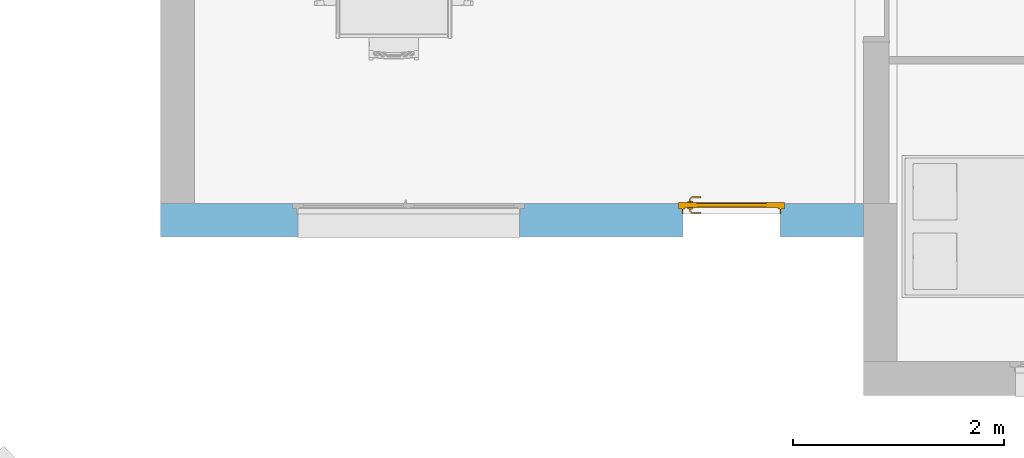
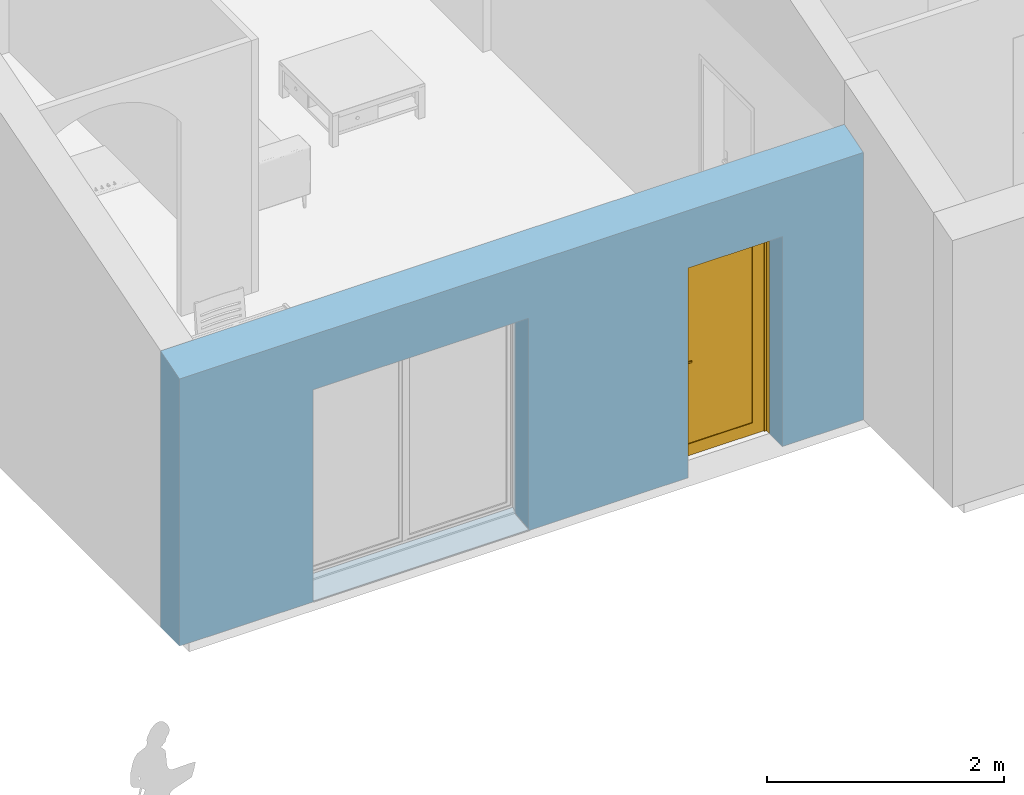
# One storey, part 8 of 18: 1 door, 2 openings, plus 1 element that does not belong to this part.
"""IFC2X3 building model written with IfcOpenShell, lengths in metres."""

from ifc_helpers import new_model, entity, si_unit, converted_unit, derived_unit, direction, frame, frame_2d, origin, place, context, subcontext, project, spatial, polyline, rectangle, extrude, clip, bounded_halfspace, faceted_brep, source, transform, mapped, material, material_list, layer, layer_set, layer_usage, type_object, type_shapes, element, fill, save


model = new_model("IFC2X3")

# Units and contexts
model_context = context("Model", 3, precision=1e-05, world=origin(), true_north=direction((6.12303176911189e-17, 1.0)))
body_context = subcontext(model_context, "Body", "Model", "MODEL_VIEW")
ifc_project = project(units=[si_unit("LENGTHUNIT", "METRE"), si_unit("AREAUNIT", "SQUARE_METRE"), si_unit("VOLUMEUNIT", "CUBIC_METRE"), converted_unit("PLANEANGLEUNIT", "DEGREE", entity("IfcRatioMeasure", 0.0174532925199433), si_unit("PLANEANGLEUNIT", "RADIAN"), dimensions=[0, 0, 0, 0, 0, 0, 0]), si_unit("MASSUNIT", "GRAM", prefix="KILO"), derived_unit("MASSDENSITYUNIT", [(si_unit("MASSUNIT", "GRAM", prefix="KILO"), 1), (si_unit("LENGTHUNIT", "METRE"), -3)]), derived_unit("MOMENTOFINERTIAUNIT", [(si_unit("LENGTHUNIT", "METRE"), 4)]), si_unit("TIMEUNIT", "SECOND"), si_unit("FREQUENCYUNIT", "HERTZ"), si_unit("THERMODYNAMICTEMPERATUREUNIT", "DEGREE_CELSIUS"), derived_unit("THERMALTRANSMITTANCEUNIT", [(si_unit("MASSUNIT", "GRAM", prefix="KILO"), 1), (si_unit("THERMODYNAMICTEMPERATUREUNIT", "KELVIN"), -1), (si_unit("TIMEUNIT", "SECOND"), -3)]), derived_unit("VOLUMETRICFLOWRATEUNIT", [(si_unit("LENGTHUNIT", "METRE"), 3), (si_unit("TIMEUNIT", "SECOND"), -1)]), si_unit("ELECTRICCURRENTUNIT", "AMPERE"), si_unit("ELECTRICVOLTAGEUNIT", "VOLT"), si_unit("POWERUNIT", "WATT"), si_unit("FORCEUNIT", "NEWTON", prefix="KILO"), si_unit("ILLUMINANCEUNIT", "LUX"), si_unit("LUMINOUSFLUXUNIT", "LUMEN"), si_unit("LUMINOUSINTENSITYUNIT", "CANDELA"), derived_unit("USERDEFINED", [(si_unit("MASSUNIT", "GRAM", prefix="KILO"), -1), (si_unit("LENGTHUNIT", "METRE"), -2), (si_unit("TIMEUNIT", "SECOND"), 3), (si_unit("LUMINOUSFLUXUNIT", "LUMEN"), 1)]), derived_unit("LINEARVELOCITYUNIT", [(si_unit("LENGTHUNIT", "METRE"), 1), (si_unit("TIMEUNIT", "SECOND"), -1)]), si_unit("PRESSUREUNIT", "PASCAL"), derived_unit("USERDEFINED", [(si_unit("LENGTHUNIT", "METRE"), -2), (si_unit("MASSUNIT", "GRAM", prefix="KILO"), 1), (si_unit("TIMEUNIT", "SECOND"), -2)]), derived_unit("LINEARFORCEUNIT", [(si_unit("MASSUNIT", "GRAM", prefix="KILO"), 1), (si_unit("LENGTHUNIT", "METRE"), 1), (si_unit("TIMEUNIT", "SECOND"), -2), (si_unit("LENGTHUNIT", "METRE"), -1)]), derived_unit("PLANARFORCEUNIT", [(si_unit("MASSUNIT", "GRAM", prefix="KILO"), 1), (si_unit("LENGTHUNIT", "METRE"), 1), (si_unit("TIMEUNIT", "SECOND"), -2), (si_unit("LENGTHUNIT", "METRE"), -2)])], contexts=[model_context])

# Site, building, storey
site_placement = place(None, origin())
site = spatial("IfcSite", under=ifc_project, at=site_placement, Name="Surface", CompositionType="ELEMENT")
building_placement = place(site_placement, origin())
building = spatial("IfcBuilding", under=site, at=building_placement, CompositionType="ELEMENT")
storey_placement = place(building_placement, origin())
storey = spatial("IfcBuildingStorey", under=building, at=storey_placement, Name="RDC", CompositionType="ELEMENT", Elevation=-1.94916083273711e-14)

# Wall, openings, door
ifc_material_1 = material(Name="Maçonnerie - Enduit")
ifc_layer_1 = layer(ifc_material_1, 0.02)
ifc_material_2 = material(Name="Blocs béton manufacturés")
ifc_layer_2 = layer(ifc_material_2, 0.2)
ifc_material_3 = material(Name="Maçonnerie - Isolant")
ifc_layer_3 = layer(ifc_material_3, 0.1)
ifc_layer_set = layer_set([ifc_layer_1, ifc_layer_2, ifc_layer_3], Name="Mur de base:Ext. Parpaing 20 + Isolant 10")
ifc_layer_usage = layer_usage(ifc_layer_set, "AXIS2", "NEGATIVE", 0.16)
wall_type = type_object("IfcWallType", Name="Mur de base:Ext. Parpaing 20 + Isolant 10", PredefinedType="STANDARD", material=ifc_layer_set)
wall_placement = place(storey_placement, frame((-11.3482926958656, 0.547379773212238, 0.0), z_axis=(0.0, 0.0, 1.0), x_axis=(-1.0, 0.0, 0.0)))
wall = element("IfcWallStandardCase", 1, at=wall_placement, inside=storey, type_object=wall_type, material=ifc_layer_usage, Name="Mur de base:Ext. Parpaing 20 + Isolant 10", ObjectType="Mur de base:Ext. Parpaing 20 + Isolant 10", context=body_context, shape_type="Clipping", body=[
    clip(extrude(rectangle(XDim=6.66, YDim=0.32, at=frame_2d((3.33, 0.0), x_axis=(-1.0, 0.0))), origin(), (0.0, 0.0, 1.0), 2.84600000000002), bounded_halfspace(frame((0.0, -0.16, 2.84600000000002), z_axis=(0.0, 0.287347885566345, 0.957826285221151), x_axis=(-1.0, 0.0, 0.0)), False, frame((0.0, -0.16, 2.84600000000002)), polyline([(0.0, 0.0), (6.33999999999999, 0.0), (6.66, 0.0), (6.66, 0.32), (0.0, 0.32), (0.0, 0.0)]))),
])
opening_1_placement = place(wall_placement, frame((1.74999999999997, 0.460000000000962, 0.0), z_axis=(0.0, 0.0, 1.0), x_axis=(-1.0, 0.0, 0.0)))
opening_1 = element("IfcOpeningElement", 2, at=opening_1_placement, cuts=wall, Name="Mur de base:Ext. Parpaing 20 + Isolant 10", ObjectType="Opening", context=body_context, shape_type="Brep", body=[
    faceted_brep([(0.960000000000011, 0.920000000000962, 2.15999999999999), (0.0400000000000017, 0.920000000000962, 2.15999999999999), (0.0400000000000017, 0.628000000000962, 2.15999999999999), (0.960000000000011, 0.628000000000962, 2.15999999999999), (0.960000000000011, 0.0, 0.0), (0.0400000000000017, 0.0, 0.0), (0.0400000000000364, 0.520000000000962, 0.0), (0.0300000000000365, 0.520000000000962, 0.0), (0.0300000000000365, 0.568000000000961, 0.0), (0.0, 0.568000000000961, 0.0), (0.0, 0.628000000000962, 0.0), (0.0400000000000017, 0.628000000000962, 0.0), (0.0400000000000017, 0.920000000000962, 0.0), (0.960000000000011, 0.920000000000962, 0.0), (0.959999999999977, 0.628000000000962, 0.0), (1.0, 0.628000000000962, 0.0), (1.0, 0.568000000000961, 0.0), (0.969999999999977, 0.568000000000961, 0.0), (0.969999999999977, 0.520000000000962, 0.0), (0.960000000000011, 0.520000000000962, 0.0), (0.960000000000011, 0.0, 2.15999999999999), (0.0400000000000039, 0.0, 2.15999999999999), (0.0400000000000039, 0.520000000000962, 2.15999999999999), (0.0300000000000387, 0.568000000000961, 2.16999999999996), (0.969999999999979, 0.568000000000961, 2.16999999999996), (1.0, 0.568000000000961, 2.2), (0.0, 0.568000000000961, 2.2), (0.0300000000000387, 0.520000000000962, 2.16999999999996), (0.960000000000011, 0.520000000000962, 2.15999999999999), (0.969999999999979, 0.520000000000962, 2.16999999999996), (0.0, 0.628000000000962, 2.2), (1.0, 0.628000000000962, 2.2)], [[[0, 1, 2, 3]], [[4, 5, 6, 7, 8, 9, 10, 11, 12, 13, 14, 15, 16, 17, 18, 19]], [[13, 0, 3, 14]], [[20, 21, 5, 4]], [[5, 21, 22, 6]], [[1, 0, 13, 12]], [[9, 8, 23, 24, 17, 16, 25, 26]], [[8, 7, 27, 23]], [[7, 6, 22, 28, 19, 18, 29, 27]], [[11, 10, 30, 31, 15, 14, 3, 2]], [[10, 9, 26, 30]], [[24, 23, 27, 29]], [[26, 25, 31, 30]], [[17, 24, 29, 18]], [[25, 16, 15, 31]], [[1, 12, 11, 2]], [[20, 4, 19, 28]], [[21, 20, 28, 22]]]),
])
opening_2_placement = place(wall_placement, frame((5.41, 0.500000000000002, 0.0), z_axis=(0.0, 0.0, 1.0), x_axis=(-1.0, 0.0, 0.0)))
element("IfcOpeningElement", 3, at=opening_2_placement, cuts=wall, Name="Mur de base:Ext. Parpaing 20 + Isolant 10", ObjectType="Opening", context=body_context, shape_type="Brep", body=[
    faceted_brep([(2.15, 0.579999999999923, 0.0350000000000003), (2.15, 0.559999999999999, 0.0350000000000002), (2.15, 0.559999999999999, 2.185), (2.15, 0.0, 2.185), (2.15, 0.0, 0.0), (2.15, 0.246997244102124, 0.0), (0.0499999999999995, 1.0, 0.0350000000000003), (0.0499999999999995, 0.660000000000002, 0.0350000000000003), (0.0499999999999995, 0.660000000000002, 2.185), (0.0499999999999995, 1.0, 2.185), (2.15, 1.0, 0.0350000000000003), (2.15, 0.660000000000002, 0.0350000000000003), (2.2, 0.660000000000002, 0.0350000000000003), (2.2, 0.610000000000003, 0.0350000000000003), (2.16, 0.610000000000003, 0.0350000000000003), (2.16, 0.559999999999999, 0.0350000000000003), (0.0499999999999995, 0.579999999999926, 0.035), (0.0499999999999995, 0.559999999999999, 0.0350000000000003), (0.0399999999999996, 0.559999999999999, 0.0350000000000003), (0.0399999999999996, 0.610000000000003, 0.0350000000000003), (0.0, 0.610000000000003, 0.0350000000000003), (0.0, 0.660000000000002, 0.0350000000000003), (2.15, 1.0, 2.185), (0.0499999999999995, 0.56, 2.185), (0.0499999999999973, 0.0, 2.185), (0.0499999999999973, 0.0, 0.0), (0.0499999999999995, 0.246997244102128, 0.0), (2.2, 0.660000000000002, 2.235), (2.2, 0.610000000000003, 2.235), (0.0, 0.610000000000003, 2.235), (0.0399999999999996, 0.610000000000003, 2.195), (2.16, 0.610000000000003, 2.195), (2.16, 0.559999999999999, 2.195), (0.0399999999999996, 0.559999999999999, 2.195), (2.15, 0.660000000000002, 2.185), (0.0, 0.660000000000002, 2.235)], [[[0, 1, 2, 3, 4, 5]], [[6, 7, 8, 9]], [[10, 11, 12, 13, 14, 15, 1, 0, 16, 17, 18, 19, 20, 21, 7, 6]], [[10, 6, 9, 22]], [[3, 2, 23, 24]], [[3, 24, 25, 4]], [[4, 25, 26, 5]], [[5, 26, 16, 0]], [[12, 27, 28, 13]], [[13, 28, 29, 20, 19, 30, 31, 14]], [[14, 31, 32, 15]], [[15, 32, 33, 18, 17, 23, 2, 1]], [[11, 34, 8, 7, 21, 35, 27, 12]], [[27, 35, 29, 28]], [[30, 33, 32, 31]], [[29, 35, 21, 20]], [[19, 18, 33, 30]], [[9, 8, 34, 22]], [[24, 23, 17, 16, 26, 25]], [[22, 34, 11, 10]]]),
])
ifc_material_4 = material(Name="PVC - Blanc")
ifc_material_list = material_list([ifc_material_4, ifc_material_4, ifc_material_4])
door_style = type_object("IfcDoorStyle", Name="Ext. Simple:Lisse - 0.90 m x 2.15 m", ConstructionType="NOTDEFINED", OperationType="SINGLE_SWING_LEFT", ParameterTakesPrecedence=False, Sizeable=False, material=ifc_material_list)
shared_shape = source(origin(), body_context, "Body", "Brep", [
    faceted_brep([(0.892322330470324, -0.302000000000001, 0.982322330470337), (0.897499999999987, -0.302000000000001, 0.978349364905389), (0.903529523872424, -0.302000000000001, 0.975851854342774), (0.909999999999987, -0.302000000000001, 0.975), (0.91647047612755, -0.302000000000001, 0.975851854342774), (0.922499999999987, -0.302000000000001, 0.978349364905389), (0.927677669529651, -0.302000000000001, 0.982322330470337), (0.931650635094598, -0.302000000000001, 0.9875), (0.934148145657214, -0.302000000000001, 0.993529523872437), (0.934999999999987, -0.302000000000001, 1.0), (0.934148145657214, -0.302000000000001, 1.00647047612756), (0.931650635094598, -0.302000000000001, 1.0125), (0.927677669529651, -0.302000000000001, 1.01767766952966), (0.922499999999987, -0.302000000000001, 1.02165063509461), (0.91647047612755, -0.302000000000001, 1.02414814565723), (0.909999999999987, -0.302000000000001, 1.025), (0.903529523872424, -0.302000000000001, 1.02414814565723), (0.897499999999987, -0.302000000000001, 1.02165063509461), (0.892322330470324, -0.302000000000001, 1.01767766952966), (0.888349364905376, -0.302000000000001, 1.0125), (0.885851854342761, -0.302000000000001, 1.00647047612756), (0.884999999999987, -0.302000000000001, 1.0), (0.885851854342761, -0.302000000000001, 0.993529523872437), (0.888349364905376, -0.302000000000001, 0.9875), (0.909999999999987, -0.292000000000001, 1.025), (0.91647047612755, -0.292000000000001, 1.02414814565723), (0.922499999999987, -0.292000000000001, 1.02165063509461), (0.927677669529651, -0.292000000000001, 1.01767766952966), (0.931650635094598, -0.292000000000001, 1.0125), (0.934148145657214, -0.292000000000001, 1.00647047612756), (0.934999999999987, -0.292000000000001, 1.0), (0.934148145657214, -0.292000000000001, 0.993529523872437), (0.931650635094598, -0.292000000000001, 0.9875), (0.927677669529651, -0.292000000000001, 0.982322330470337), (0.922499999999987, -0.292000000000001, 0.978349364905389), (0.91647047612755, -0.292000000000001, 0.975851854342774), (0.909999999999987, -0.292000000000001, 0.975), (0.903529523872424, -0.292000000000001, 0.975851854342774), (0.897499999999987, -0.292000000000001, 0.978349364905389), (0.892322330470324, -0.292000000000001, 0.982322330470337), (0.888349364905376, -0.292000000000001, 0.9875), (0.88585185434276, -0.292000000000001, 0.993529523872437), (0.884999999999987, -0.292000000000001, 1.0), (0.88585185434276, -0.292000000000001, 1.00647047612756), (0.888349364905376, -0.292000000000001, 1.0125), (0.892322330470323, -0.292000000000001, 1.01767766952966), (0.897499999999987, -0.292000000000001, 1.02165063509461), (0.903529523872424, -0.292000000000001, 1.02414814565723)], [[[0, 1, 2, 3, 4, 5, 6, 7, 8, 9, 10, 11, 12, 13, 14, 15, 16, 17, 18, 19, 20, 21, 22, 23]], [[24, 25, 26, 27, 28, 29, 30, 31, 32, 33, 34, 35, 36, 37, 38, 39, 40, 41, 42, 43, 44, 45, 46, 47]], [[30, 9, 8, 31]], [[31, 8, 7, 32]], [[34, 33, 6, 5]], [[6, 33, 32, 7]], [[35, 34, 5, 4]], [[35, 4, 3, 36]], [[36, 3, 2, 37]], [[37, 2, 1, 38]], [[40, 39, 0, 23]], [[0, 39, 38, 1]], [[41, 40, 23, 22]], [[41, 22, 21, 42]], [[42, 21, 20, 43]], [[43, 20, 19, 44]], [[46, 45, 18, 17]], [[18, 45, 44, 19]], [[47, 46, 17, 16]], [[47, 16, 15, 24]], [[24, 15, 14, 25]], [[25, 14, 13, 26]], [[28, 27, 12, 11]], [[12, 27, 26, 13]], [[29, 28, 11, 10]], [[29, 10, 9, 30]]]),
    faceted_brep([(0.892322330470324, -0.242000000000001, 0.982322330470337), (0.897499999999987, -0.242000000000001, 0.978349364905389), (0.903529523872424, -0.242000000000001, 0.975851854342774), (0.909999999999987, -0.242000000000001, 0.975), (0.91647047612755, -0.242000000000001, 0.975851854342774), (0.922499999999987, -0.242000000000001, 0.978349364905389), (0.927677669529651, -0.242000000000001, 0.982322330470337), (0.931650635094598, -0.242000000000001, 0.9875), (0.934148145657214, -0.242000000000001, 0.993529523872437), (0.934999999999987, -0.242000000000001, 1.0), (0.934148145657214, -0.242000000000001, 1.00647047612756), (0.931650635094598, -0.242000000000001, 1.0125), (0.927677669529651, -0.242000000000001, 1.01767766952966), (0.922499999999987, -0.242000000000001, 1.02165063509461), (0.91647047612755, -0.242000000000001, 1.02414814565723), (0.909999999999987, -0.242000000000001, 1.025), (0.903529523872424, -0.242000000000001, 1.02414814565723), (0.897499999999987, -0.242000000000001, 1.02165063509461), (0.892322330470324, -0.242000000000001, 1.01767766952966), (0.888349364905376, -0.242000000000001, 1.0125), (0.88585185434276, -0.242000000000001, 1.00647047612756), (0.884999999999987, -0.242000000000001, 1.0), (0.885851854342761, -0.242000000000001, 0.993529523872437), (0.888349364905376, -0.242000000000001, 0.9875), (0.909999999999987, -0.232000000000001, 1.025), (0.91647047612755, -0.232000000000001, 1.02414814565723), (0.922499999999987, -0.232000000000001, 1.02165063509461), (0.927677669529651, -0.232000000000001, 1.01767766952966), (0.931650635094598, -0.232000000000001, 1.0125), (0.934148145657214, -0.232000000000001, 1.00647047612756), (0.934999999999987, -0.232000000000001, 1.0), (0.934148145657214, -0.232000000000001, 0.993529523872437), (0.931650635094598, -0.232000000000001, 0.9875), (0.927677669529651, -0.232000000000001, 0.982322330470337), (0.922499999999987, -0.232000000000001, 0.978349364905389), (0.91647047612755, -0.232000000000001, 0.975851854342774), (0.909999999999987, -0.232000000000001, 0.975), (0.903529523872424, -0.232000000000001, 0.975851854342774), (0.897499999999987, -0.232000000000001, 0.978349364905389), (0.892322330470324, -0.232000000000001, 0.982322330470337), (0.888349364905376, -0.232000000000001, 0.9875), (0.885851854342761, -0.232000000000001, 0.993529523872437), (0.884999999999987, -0.232000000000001, 1.0), (0.88585185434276, -0.232000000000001, 1.00647047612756), (0.888349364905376, -0.232000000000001, 1.0125), (0.892322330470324, -0.232000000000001, 1.01767766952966), (0.897499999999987, -0.232000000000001, 1.02165063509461), (0.903529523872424, -0.232000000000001, 1.02414814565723)], [[[0, 1, 2, 3, 4, 5, 6, 7, 8, 9, 10, 11, 12, 13, 14, 15, 16, 17, 18, 19, 20, 21, 22, 23]], [[24, 25, 26, 27, 28, 29, 30, 31, 32, 33, 34, 35, 36, 37, 38, 39, 40, 41, 42, 43, 44, 45, 46, 47]], [[30, 9, 8, 31]], [[31, 8, 7, 32]], [[34, 33, 6, 5]], [[6, 33, 32, 7]], [[35, 34, 5, 4]], [[35, 4, 3, 36]], [[36, 3, 2, 37]], [[37, 2, 1, 38]], [[40, 39, 0, 23]], [[0, 39, 38, 1]], [[41, 40, 23, 22]], [[41, 22, 21, 42]], [[42, 21, 20, 43]], [[43, 20, 19, 44]], [[46, 45, 18, 17]], [[18, 45, 44, 19]], [[47, 46, 17, 16]], [[47, 16, 15, 24]], [[24, 15, 14, 25]], [[25, 14, 13, 26]], [[28, 27, 12, 11]], [[12, 27, 26, 13]], [[29, 28, 11, 10]], [[29, 10, 9, 30]]]),
    faceted_brep([(0.907974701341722, -0.302000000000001, 1.00778044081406), (0.912025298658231, -0.302000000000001, 1.00778044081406), (0.916000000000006, -0.302000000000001, 1.00699999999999), (0.916000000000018, -0.302000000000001, 0.992999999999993), (0.912025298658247, -0.302000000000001, 0.992219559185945), (0.907974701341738, -0.302000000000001, 0.992219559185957), (0.903999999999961, -0.302000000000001, 0.993000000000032), (0.903999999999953, -0.302000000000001, 1.007), (0.912025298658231, -0.328004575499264, 1.00778044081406), (0.916000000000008, -0.32965095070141, 1.007), (0.907974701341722, -0.326326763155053, 1.00778044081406), (0.89429860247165, -0.340002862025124, 1.00778044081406), (0.89597641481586, -0.344053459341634, 1.00778044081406), (0.903999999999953, -0.32468038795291, 1.007), (0.903999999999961, -0.324680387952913, 0.993000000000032), (0.907974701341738, -0.32632676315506, 0.992219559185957), (0.912025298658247, -0.32800457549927, 0.992219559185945), (0.895976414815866, -0.344053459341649, 0.992219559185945), (0.894298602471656, -0.34000286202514, 0.992219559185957), (0.916000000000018, -0.329650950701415, 0.992999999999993), (0.897622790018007, -0.34802816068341, 1.007), (0.892652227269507, -0.336028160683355, 1.007), (0.89265222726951, -0.336028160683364, 0.993000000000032), (0.89762279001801, -0.348028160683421, 0.992999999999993), (0.809981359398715, -0.348028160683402, 1.007), (0.809981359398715, -0.344053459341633, 1.00778044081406), (0.809981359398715, -0.340002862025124, 1.00778044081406), (0.809981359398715, -0.336028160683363, 1.007), (0.809981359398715, -0.336028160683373, 0.993000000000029), (0.809981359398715, -0.34000286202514, 0.992219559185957), (0.809981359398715, -0.344053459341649, 0.992219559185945), (0.809981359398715, -0.348028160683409, 0.992999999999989), (0.852139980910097, -0.34202816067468, 1.0078786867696), (0.857692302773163, -0.348028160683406, 1.007), (0.851316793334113, -0.336028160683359, 1.007), (0.851316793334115, -0.336028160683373, 0.993000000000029), (0.852139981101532, -0.342028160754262, 0.992121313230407), (0.857692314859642, -0.348028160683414, 0.992999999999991)], [[[0, 1, 2, 3, 4, 5, 6, 7]], [[2, 1, 8, 9]], [[1, 0, 10, 11, 12, 8]], [[0, 7, 13, 10]], [[14, 13, 7, 6]], [[5, 15, 14, 6]], [[5, 4, 16, 17, 18, 15]], [[3, 19, 16, 4]], [[9, 19, 3, 2]], [[9, 8, 12, 20]], [[10, 13, 21, 11]], [[22, 21, 13, 14]], [[14, 15, 18, 22]], [[16, 19, 23, 17]], [[20, 23, 19, 9]], [[24, 25, 26, 27, 28, 29, 30, 31]], [[32, 25, 33]], [[33, 25, 24]], [[33, 20, 12]], [[11, 34, 32]], [[34, 11, 21]], [[27, 26, 34]], [[32, 26, 25]], [[32, 34, 26]], [[32, 33, 12]], [[11, 32, 12]], [[21, 22, 35, 28, 27, 34]], [[36, 29, 35]], [[30, 36, 37]], [[18, 35, 22]], [[29, 28, 35]], [[30, 37, 31]], [[37, 17, 23]], [[36, 17, 37]], [[36, 18, 17]], [[36, 35, 18]], [[29, 36, 30]], [[23, 20, 33, 24, 31, 37]]]),
    faceted_brep([(0.907974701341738, -0.232000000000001, 0.992219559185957), (0.912025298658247, -0.232000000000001, 0.992219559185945), (0.916000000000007, -0.232000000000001, 0.99299999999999), (0.916, -0.232000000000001, 1.007), (0.912025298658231, -0.232000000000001, 1.00778044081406), (0.907974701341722, -0.232000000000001, 1.00778044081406), (0.903999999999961, -0.232000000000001, 1.007), (0.903999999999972, -0.232000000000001, 0.993000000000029), (0.903999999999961, -0.209514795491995, 1.007), (0.903999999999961, -0.20951479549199, 0.993000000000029), (0.907974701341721, -0.207868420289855, 1.00778044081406), (0.912025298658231, -0.206190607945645, 1.00778044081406), (0.895838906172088, -0.190004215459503, 1.00778044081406), (0.894161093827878, -0.194054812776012, 1.00778044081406), (0.916, -0.204544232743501, 1.007), (0.916000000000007, -0.204544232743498, 0.99299999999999), (0.912025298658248, -0.206190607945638, 0.992219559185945), (0.907974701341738, -0.207868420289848, 0.992219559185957), (0.894161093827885, -0.194054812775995, 0.992219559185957), (0.895838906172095, -0.190004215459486, 0.992219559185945), (0.892514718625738, -0.198029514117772, 1.007), (0.892514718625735, -0.198029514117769, 0.993000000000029), (0.897485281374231, -0.186029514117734, 1.007), (0.897485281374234, -0.186029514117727, 0.99299999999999), (0.809954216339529, -0.194054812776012, 1.00778044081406), (0.809954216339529, -0.190004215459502, 1.00778044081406), (0.809954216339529, -0.186029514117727, 1.007), (0.809954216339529, -0.186029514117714, 0.992999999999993), (0.809954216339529, -0.190004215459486, 0.992219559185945), (0.809954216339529, -0.194054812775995, 0.992219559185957), (0.809954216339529, -0.198029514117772, 0.993000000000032), (0.809954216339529, -0.198029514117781, 1.007), (0.851234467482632, -0.198029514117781, 1.007), (0.851234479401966, -0.198029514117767, 0.993000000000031), (0.852057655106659, -0.19202951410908, 1.0078786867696), (0.857554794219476, -0.18602951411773, 1.007), (0.857554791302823, -0.186029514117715, 0.992999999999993), (0.852057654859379, -0.192029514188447, 0.992121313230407)], [[[0, 1, 2, 3, 4, 5, 6, 7]], [[8, 9, 7, 6]], [[5, 10, 8, 6]], [[5, 4, 11, 12, 13, 10]], [[3, 14, 11, 4]], [[14, 3, 2, 15]], [[2, 1, 16, 15]], [[1, 0, 17, 18, 19, 16]], [[0, 7, 9, 17]], [[20, 21, 9, 8]], [[8, 10, 13, 20]], [[14, 22, 12, 11]], [[23, 22, 14, 15]], [[15, 16, 19, 23]], [[17, 9, 21, 18]], [[24, 25, 26, 27, 28, 29, 30, 31]], [[20, 32, 31, 30, 33, 21]], [[34, 24, 32]], [[25, 34, 35]], [[13, 32, 20]], [[24, 31, 32]], [[25, 35, 26]], [[35, 12, 22]], [[34, 12, 35]], [[34, 13, 12]], [[34, 32, 13]], [[24, 34, 25]], [[22, 23, 36, 27, 26, 35]], [[37, 28, 36]], [[36, 28, 27]], [[36, 23, 19]], [[18, 33, 37]], [[33, 18, 21]], [[30, 29, 33]], [[37, 29, 28]], [[37, 33, 29]], [[37, 36, 19]], [[18, 37, 19]]]),
    faceted_brep([(0.969999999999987, -0.242, 2.15), (0.969999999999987, -0.242, 0.0), (0.0699999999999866, -0.242, 0.0), (0.0699999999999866, -0.242, 2.15), (0.849999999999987, -0.242, 2.03), (0.189999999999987, -0.242, 2.03), (0.189999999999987, -0.242, 0.12), (0.849999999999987, -0.242, 0.12), (0.969999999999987, -0.292, 2.15), (0.0699999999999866, -0.292, 2.15), (0.0699999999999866, -0.292, 0.0), (0.969999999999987, -0.292, 0.0), (0.189999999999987, -0.292, 2.03), (0.849999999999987, -0.292, 2.03), (0.849999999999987, -0.292, 0.12), (0.189999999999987, -0.292, 0.12), (0.189999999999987, -0.284, 2.03), (0.189999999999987, -0.284, 0.12), (0.849999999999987, -0.284, 0.12), (0.849999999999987, -0.284, 2.03), (0.849999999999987, -0.25, 2.03), (0.849999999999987, -0.25, 0.12), (0.189999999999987, -0.25, 0.12), (0.189999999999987, -0.25, 2.03)], [[[0, 1, 2, 3], [4, 5, 6, 7]], [[8, 9, 10, 11], [12, 13, 14, 15]], [[3, 9, 8, 0]], [[2, 10, 9, 3]], [[1, 11, 10, 2]], [[0, 8, 11, 1]], [[16, 17, 18, 19]], [[16, 12, 15, 17]], [[17, 15, 14, 18]], [[18, 14, 13, 19]], [[19, 13, 12, 16]], [[20, 21, 22, 23]], [[20, 4, 7, 21]], [[21, 7, 6, 22]], [[22, 6, 5, 23]], [[23, 5, 4, 20]]]),
    faceted_brep([(1.01999999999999, -0.232000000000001, 0.0), (1.01999999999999, -0.292000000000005, 0.0), (0.969999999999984, -0.292000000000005, 0.0), (0.969999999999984, -0.242, 0.0), (0.959999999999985, -0.242, 0.0), (0.959999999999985, -0.232000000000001, 0.0), (0.979999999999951, -0.232000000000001, 0.0), (0.979999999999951, -0.184000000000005, 0.0), (0.989999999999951, -0.184000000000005, 0.0), (0.989999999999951, -0.232000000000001, 0.0), (0.989999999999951, -0.232000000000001, 2.17), (0.0499999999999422, -0.232000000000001, 2.17), (0.0499999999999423, -0.232000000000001, 0.0), (0.0199999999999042, -0.232000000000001, 0.0), (0.0199999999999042, -0.232000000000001, 2.20000000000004), (1.01999999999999, -0.232000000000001, 2.20000000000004), (0.989999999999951, -0.184000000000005, 2.17), (0.979999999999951, -0.184000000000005, 2.16), (0.0599999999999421, -0.184000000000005, 2.16), (0.0599999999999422, -0.184000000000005, 0.0), (0.0499999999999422, -0.184000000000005, 0.0), (0.0499999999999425, -0.184000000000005, 2.17), (0.979999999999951, -0.232000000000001, 2.16), (0.959999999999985, -0.232000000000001, 2.14000000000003), (0.0799999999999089, -0.232000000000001, 2.14000000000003), (0.0799999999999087, -0.232000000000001, 0.0), (0.0599999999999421, -0.232000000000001, 0.0), (0.0599999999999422, -0.232000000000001, 2.16), (0.959999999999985, -0.242, 2.14000000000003), (0.969999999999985, -0.242, 2.15000000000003), (0.0699999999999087, -0.242, 2.15000000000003), (0.0699999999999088, -0.242, 0.0), (0.0799999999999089, -0.242, 0.0), (0.0799999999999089, -0.242, 2.14000000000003), (0.969999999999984, -0.292000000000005, 2.15000000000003), (1.01999999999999, -0.292000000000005, 2.20000000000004), (0.0199999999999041, -0.292000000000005, 2.20000000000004), (0.019999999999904, -0.292000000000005, 0.0), (0.0699999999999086, -0.292000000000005, 0.0), (0.0699999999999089, -0.292000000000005, 2.15000000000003)], [[[0, 1, 2, 3, 4, 5, 6, 7, 8, 9]], [[9, 10, 11, 12, 13, 14, 15, 0]], [[8, 16, 10, 9]], [[7, 17, 18, 19, 20, 21, 16, 8]], [[6, 22, 17, 7]], [[5, 23, 24, 25, 26, 27, 22, 6]], [[4, 28, 23, 5]], [[3, 29, 30, 31, 32, 33, 28, 4]], [[2, 34, 29, 3]], [[1, 35, 36, 37, 38, 39, 34, 2]], [[0, 15, 35, 1]], [[14, 13, 37, 36]], [[13, 12, 20, 19, 26, 25, 32, 31, 38, 37]], [[21, 20, 12, 11]], [[27, 26, 19, 18]], [[33, 32, 25, 24]], [[39, 38, 31, 30]], [[16, 21, 11, 10]], [[22, 27, 18, 17]], [[28, 33, 24, 23]], [[34, 39, 30, 29]], [[15, 14, 36, 35]]]),
])
type_shapes(door_style, [shared_shape])
door_placement = place(opening_1_placement, frame((1.01999999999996, 0.336000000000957, 0.0), z_axis=(0.0, 0.0, 1.0), x_axis=(-1.0, 0.0, 0.0)))
door = element("IfcDoor", 4, at=door_placement, inside=storey, type_object=door_style, material=ifc_material_4, Name="Ext. Simple:Lisse - 0.90 m x 2.15 m", ObjectType="Ext. Simple:Lisse - 0.90 m x 2.15 m", OverallHeight=2.20000000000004, OverallWidth=1.00000000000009, context=body_context, shape_type="MappedRepresentation", body=[
    mapped(shared_shape, transform((0.0, 0.0, 0.0), scale=1.0)),
])
fill(opening_1, door)

save(model, "model.ifc")
